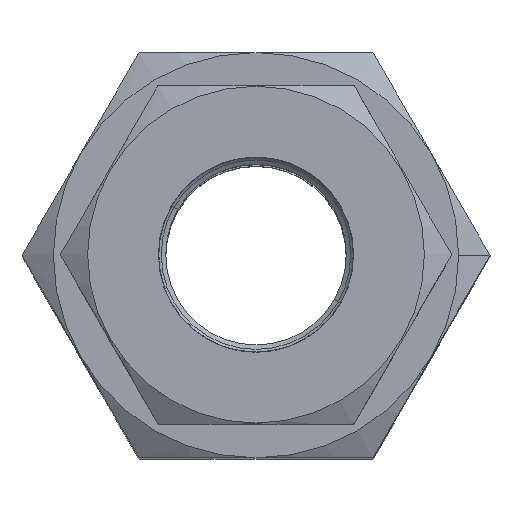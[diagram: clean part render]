
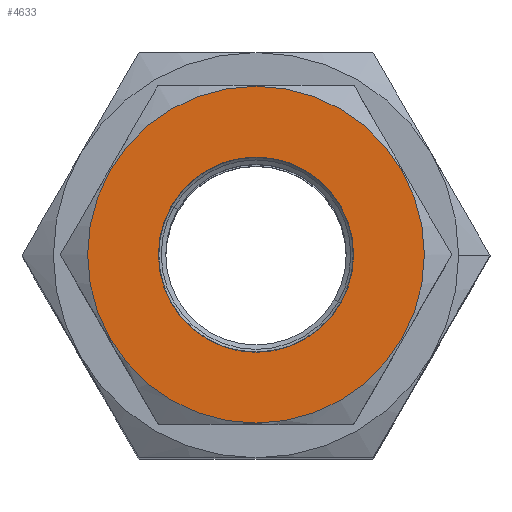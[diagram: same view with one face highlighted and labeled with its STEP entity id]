
A CAD part, top view. The second image highlights one B-rep face of the part: STEP entity #4633.
In plain terms, the highlighted planar face has unit normal (0, 0, 1).
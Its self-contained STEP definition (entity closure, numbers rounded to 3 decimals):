
#509 = DIRECTION ( 'NONE',  ( 0.866, -0.5, 0. ) ) ;
#783 = ORIENTED_EDGE ( 'NONE', *, *, #15523, .T. ) ;
#1470 = ORIENTED_EDGE ( 'NONE', *, *, #13886, .T. ) ;
#1565 = FACE_OUTER_BOUND ( 'NONE', #19157, .T. ) ;
#1760 = EDGE_CURVE ( 'NONE', #13386, #5475, #3464, .T. ) ;
#1916 = CARTESIAN_POINT ( 'NONE',  ( 0., 0., 103. ) ) ;
#2289 = AXIS2_PLACEMENT_3D ( 'NONE', #1916, #12657, #3419 ) ;
#3419 = DIRECTION ( 'NONE',  ( 0.866, -0.5, 0. ) ) ;
#3464 = CIRCLE ( 'NONE', #15419, 13.25 ) ;
#4516 = CARTESIAN_POINT ( 'NONE',  ( 0., 0., 103. ) ) ;
#4633 = ADVANCED_FACE ( 'NONE', ( #9267, #1565 ), #13520, .T. ) ;
#5047 = CARTESIAN_POINT ( 'NONE',  ( 0., 0., 103. ) ) ;
#5248 = CARTESIAN_POINT ( 'NONE',  ( -19.789, 11.425, 103. ) ) ;
#5475 = VERTEX_POINT ( 'NONE', #12621 ) ;
#6073 = DIRECTION ( 'NONE',  ( 0.866, -0.5, 0. ) ) ;
#6166 = AXIS2_PLACEMENT_3D ( 'NONE', #4516, #15235, #6073 ) ;
#6607 = DIRECTION ( 'NONE',  ( 0.866, -0.5, 0. ) ) ;
#6903 = CIRCLE ( 'NONE', #6166, 22.85 ) ;
#7351 = CIRCLE ( 'NONE', #2289, 22.85 ) ;
#7408 = ORIENTED_EDGE ( 'NONE', *, *, #8654, .T. ) ;
#7890 = ORIENTED_EDGE ( 'NONE', *, *, #1760, .T. ) ;
#8654 = EDGE_CURVE ( 'NONE', #5475, #13386, #10388, .T. ) ;
#9005 = CARTESIAN_POINT ( 'NONE',  ( 0., 0., 103. ) ) ;
#9267 = FACE_BOUND ( 'NONE', #19528, .T. ) ;
#10388 = CIRCLE ( 'NONE', #12744, 13.25 ) ;
#11455 = DIRECTION ( 'NONE',  ( 0., 0., -1. ) ) ;
#12621 = CARTESIAN_POINT ( 'NONE',  ( -11.475, 6.625, 103. ) ) ;
#12657 = DIRECTION ( 'NONE',  ( 0., 0., 1. ) ) ;
#12744 = AXIS2_PLACEMENT_3D ( 'NONE', #5047, #15770, #6607 ) ;
#12986 = DIRECTION ( 'NONE',  ( 0.866, -0.5, 0. ) ) ;
#13073 = DIRECTION ( 'NONE',  ( 0., 0., 1. ) ) ;
#13108 = CARTESIAN_POINT ( 'NONE',  ( 0., 0., 103. ) ) ;
#13386 = VERTEX_POINT ( 'NONE', #19165 ) ;
#13520 = PLANE ( 'NONE',  #19128 ) ;
#13527 = CARTESIAN_POINT ( 'NONE',  ( 19.789, -11.425, 103. ) ) ;
#13886 = EDGE_CURVE ( 'NONE', #14602, #19330, #7351, .T. ) ;
#14602 = VERTEX_POINT ( 'NONE', #5248 ) ;
#15235 = DIRECTION ( 'NONE',  ( 0., 0., 1. ) ) ;
#15419 = AXIS2_PLACEMENT_3D ( 'NONE', #9005, #11455, #509 ) ;
#15523 = EDGE_CURVE ( 'NONE', #19330, #14602, #6903, .T. ) ;
#15770 = DIRECTION ( 'NONE',  ( 0., 0., -1. ) ) ;
#19128 = AXIS2_PLACEMENT_3D ( 'NONE', #13108, #13073, #12986 ) ;
#19157 = EDGE_LOOP ( 'NONE', ( #1470, #783 ) ) ;
#19165 = CARTESIAN_POINT ( 'NONE',  ( 11.475, -6.625, 103. ) ) ;
#19330 = VERTEX_POINT ( 'NONE', #13527 ) ;
#19528 = EDGE_LOOP ( 'NONE', ( #7890, #7408 ) ) ;
